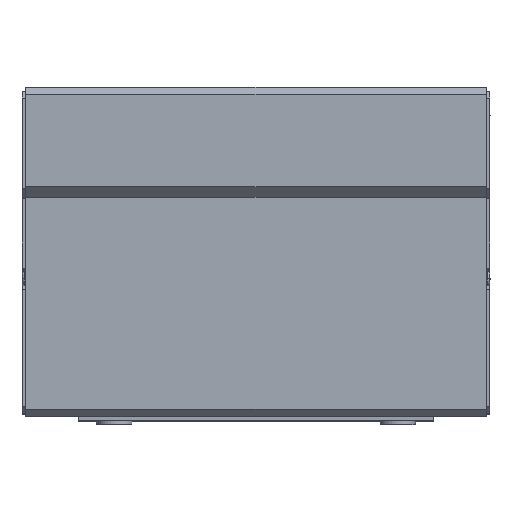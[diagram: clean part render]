
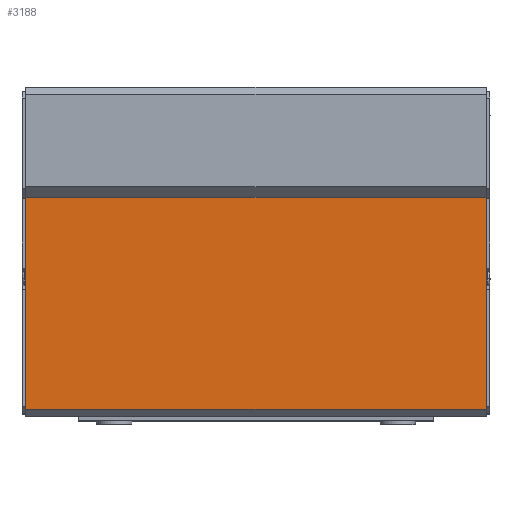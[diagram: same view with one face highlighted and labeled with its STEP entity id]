
A CAD part, top view. The second image highlights one B-rep face of the part: STEP entity #3188.
In plain terms, the highlighted planar face has unit normal (0, 0, 1).
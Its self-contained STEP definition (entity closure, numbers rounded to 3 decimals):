
#269 = EDGE_LOOP ( 'NONE', ( #944, #7250, #6108, #1819 ) ) ;
#757 = CARTESIAN_POINT ( 'NONE',  ( -32.5, 11.5, 28.5 ) ) ;
#924 = LINE ( 'NONE', #4228, #8303 ) ;
#944 = ORIENTED_EDGE ( 'NONE', *, *, #7912, .T. ) ;
#1162 = LINE ( 'NONE', #6115, #6278 ) ;
#1293 = DIRECTION ( 'NONE',  ( -1., 0., 0. ) ) ;
#1309 = VERTEX_POINT ( 'NONE', #757 ) ;
#1670 = VECTOR ( 'NONE', #1293, 1000. ) ;
#1819 = ORIENTED_EDGE ( 'NONE', *, *, #5363, .T. ) ;
#2240 = FACE_OUTER_BOUND ( 'NONE', #269, .T. ) ;
#2467 = DIRECTION ( 'NONE',  ( 0., 0., -1. ) ) ;
#3053 = EDGE_CURVE ( 'NONE', #6187, #3571, #924, .T. ) ;
#3188 = ADVANCED_FACE ( 'NONE', ( #2240 ), #7867, .F. ) ;
#3571 = VERTEX_POINT ( 'NONE', #4853 ) ;
#3622 = DIRECTION ( 'NONE',  ( 0., -1., 0. ) ) ;
#3772 = DIRECTION ( 'NONE',  ( -1., 0., 0. ) ) ;
#4051 = DIRECTION ( 'NONE',  ( 0., -1., 0. ) ) ;
#4228 = CARTESIAN_POINT ( 'NONE',  ( 32.5, 11.5, 28.5 ) ) ;
#4853 = CARTESIAN_POINT ( 'NONE',  ( 32.5, -18.4, 28.5 ) ) ;
#5304 = CARTESIAN_POINT ( 'NONE',  ( -32.5, -18.4, 28.5 ) ) ;
#5363 = EDGE_CURVE ( 'NONE', #6187, #1309, #9159, .T. ) ;
#6108 = ORIENTED_EDGE ( 'NONE', *, *, #3053, .F. ) ;
#6115 = CARTESIAN_POINT ( 'NONE',  ( 32.5, -18.4, 28.5 ) ) ;
#6187 = VERTEX_POINT ( 'NONE', #7233 ) ;
#6278 = VECTOR ( 'NONE', #7480, 1000. ) ;
#6927 = AXIS2_PLACEMENT_3D ( 'NONE', #8589, #2467, #3772 ) ;
#7233 = CARTESIAN_POINT ( 'NONE',  ( 32.5, 11.5, 28.5 ) ) ;
#7250 = ORIENTED_EDGE ( 'NONE', *, *, #9080, .F. ) ;
#7480 = DIRECTION ( 'NONE',  ( -1., 0., 0. ) ) ;
#7867 = PLANE ( 'NONE',  #6927 ) ;
#7912 = EDGE_CURVE ( 'NONE', #1309, #8477, #8574, .T. ) ;
#8016 = VECTOR ( 'NONE', #3622, 1000. ) ;
#8303 = VECTOR ( 'NONE', #4051, 1000. ) ;
#8477 = VERTEX_POINT ( 'NONE', #5304 ) ;
#8574 = LINE ( 'NONE', #8583, #8016 ) ;
#8583 = CARTESIAN_POINT ( 'NONE',  ( -32.5, 11.5, 28.5 ) ) ;
#8589 = CARTESIAN_POINT ( 'NONE',  ( 32.5, 11.5, 28.5 ) ) ;
#9080 = EDGE_CURVE ( 'NONE', #3571, #8477, #1162, .T. ) ;
#9159 = LINE ( 'NONE', #9195, #1670 ) ;
#9195 = CARTESIAN_POINT ( 'NONE',  ( 32.5, 11.5, 28.5 ) ) ;
